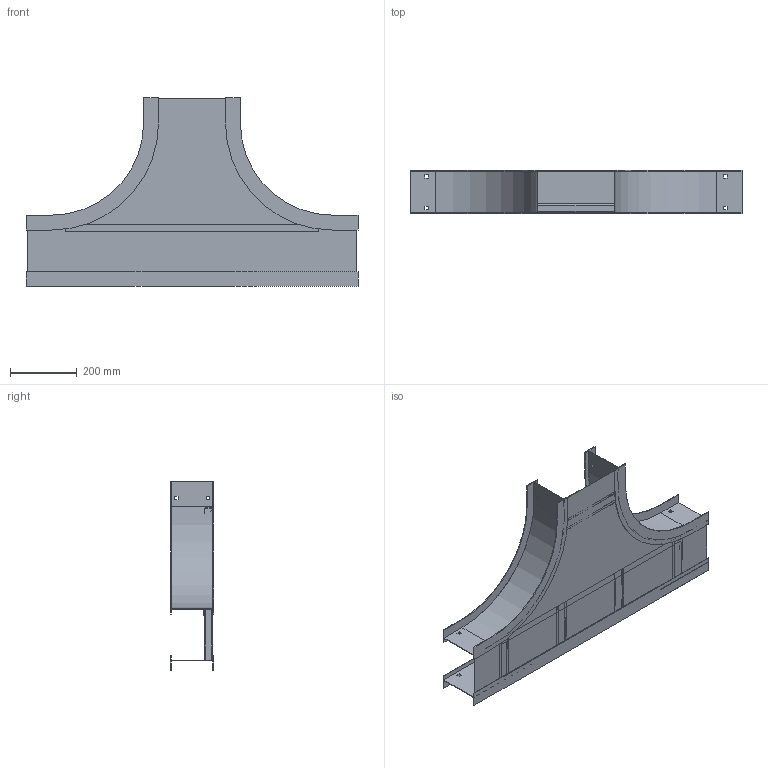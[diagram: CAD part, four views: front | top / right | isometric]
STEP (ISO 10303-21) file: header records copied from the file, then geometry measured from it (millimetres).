
FILE_DESCRIPTION((''),'2;1');
FILE_NAME('AHF50609SET12_ASM','2010-01-29T',('erouzier'),(''),'PRO/ENGINEER BY PARAMETRIC TECHNOLOGY CORPORATION, 2008510','PRO/ENGINEER BY PARAMETRIC TECHNOLOGY CORPORATION, 2008510','');
FILE_SCHEMA(('CONFIG_CONTROL_DESIGN'));
Length unit declared in the file: inch
Products named in the file (10): CDS001811-5-90-12-I; CDS013846-5-39; CDS000495_GEN_AF7; CDS002159L6_AF8; CDS002159L6_AF9; CDS002159L6_AF10; CDS002159L6_AF11; CDS002159L9_AF1; CDS014191-6-12-9; AHF50609SET12_ASM
Assembly tree (10 placements, depth 2):
  AHF50609SET12_ASM
    CDS001811-5-90-12-I  x2
    CDS013846-5-39
    CDS000495_GEN_AF7
    CDS002159L6_AF8
    CDS002159L6_AF9
    CDS002159L6_AF10
    CDS002159L6_AF11
    CDS002159L9_AF1
    CDS014191-6-12-9
Bounding box: 994.66 x 129.54 x 566.04 mm (x, y, z)
Volume: 1521159.9 mm3; surface area: 1826139.2 mm2
Topology: 10 solids, 10 shells, 286 faces, 798 edges, 532 vertices
Faces by surface type: plane 217, cylinder 69
Entity records: 8059 total; most frequent: CARTESIAN_POINT 1394, ORIENTED_EDGE 1356, DIRECTION 1332, EDGE_CURVE 678, VECTOR 552, LINE 552, VERTEX_POINT 452, AXIS2_PLACEMENT_3D 390
